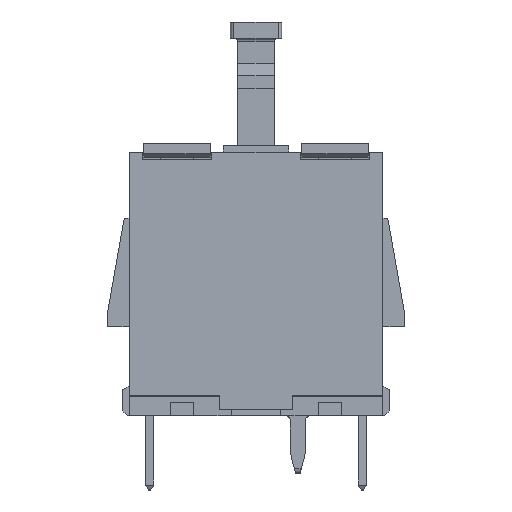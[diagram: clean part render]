
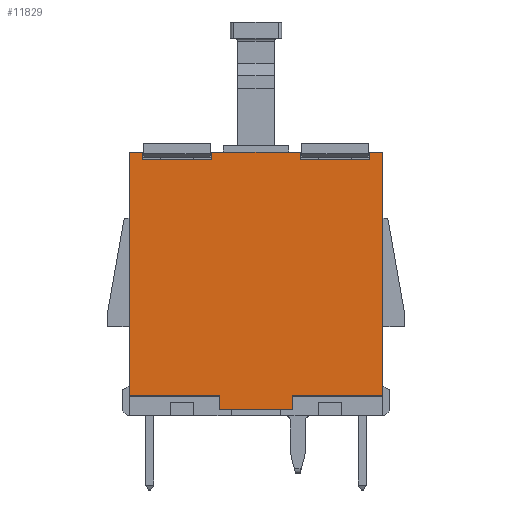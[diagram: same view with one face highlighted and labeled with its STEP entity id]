
A CAD part, top view. The second image highlights one B-rep face of the part: STEP entity #11829.
In plain terms, the highlighted planar face has unit normal (0, 0, 1).
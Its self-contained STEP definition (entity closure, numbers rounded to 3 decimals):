
#9054=DIRECTION('',(1.,0.,0.));
#9055=VECTOR('',#9054,4.4);
#9056=CARTESIAN_POINT('',(-2.2,-15.6,2.95));
#9057=LINE('',#9056,#9055);
#9058=DIRECTION('',(0.,1.,0.));
#9059=VECTOR('',#9058,0.8);
#9060=CARTESIAN_POINT('',(-2.2,-15.6,2.95));
#9061=LINE('',#9060,#9059);
#9062=DIRECTION('',(1.,0.,0.));
#9063=VECTOR('',#9062,5.5);
#9064=CARTESIAN_POINT('',(-7.7,-14.8,2.95));
#9065=LINE('',#9064,#9063);
#9066=DIRECTION('',(0.,-1.,0.));
#9067=VECTOR('',#9066,14.8);
#9068=CARTESIAN_POINT('',(-7.7,0.,2.95));
#9069=LINE('',#9068,#9067);
#9070=DIRECTION('',(-1.,0.,0.));
#9071=VECTOR('',#9070,0.8);
#9072=CARTESIAN_POINT('',(-6.9,0.,2.95));
#9073=LINE('',#9072,#9071);
#9074=DIRECTION('',(0.,-1.,0.));
#9075=VECTOR('',#9074,0.45);
#9076=CARTESIAN_POINT('',(-6.9,0.,2.95));
#9077=LINE('',#9076,#9075);
#9078=DIRECTION('',(1.,0.,0.));
#9079=VECTOR('',#9078,4.2);
#9080=CARTESIAN_POINT('',(-6.9,-0.45,2.95));
#9081=LINE('',#9080,#9079);
#9082=DIRECTION('',(0.,-1.,0.));
#9083=VECTOR('',#9082,0.45);
#9084=CARTESIAN_POINT('',(-2.7,0.,2.95));
#9085=LINE('',#9084,#9083);
#9086=DIRECTION('',(-1.,0.,0.));
#9087=VECTOR('',#9086,5.4);
#9088=CARTESIAN_POINT('',(2.7,0.,2.95));
#9089=LINE('',#9088,#9087);
#9090=DIRECTION('',(0.,-1.,0.));
#9091=VECTOR('',#9090,0.45);
#9092=CARTESIAN_POINT('',(2.7,0.,2.95));
#9093=LINE('',#9092,#9091);
#9094=DIRECTION('',(1.,0.,0.));
#9095=VECTOR('',#9094,4.2);
#9096=CARTESIAN_POINT('',(2.7,-0.45,2.95));
#9097=LINE('',#9096,#9095);
#9098=DIRECTION('',(0.,-1.,0.));
#9099=VECTOR('',#9098,0.45);
#9100=CARTESIAN_POINT('',(6.9,0.,2.95));
#9101=LINE('',#9100,#9099);
#9102=DIRECTION('',(-1.,0.,0.));
#9103=VECTOR('',#9102,0.8);
#9104=CARTESIAN_POINT('',(7.7,0.,2.95));
#9105=LINE('',#9104,#9103);
#9106=DIRECTION('',(0.,1.,0.));
#9107=VECTOR('',#9106,14.8);
#9108=CARTESIAN_POINT('',(7.7,-14.8,2.95));
#9109=LINE('',#9108,#9107);
#9110=DIRECTION('',(1.,0.,0.));
#9111=VECTOR('',#9110,5.5);
#9112=CARTESIAN_POINT('',(2.2,-14.8,2.95));
#9113=LINE('',#9112,#9111);
#9114=DIRECTION('',(0.,1.,0.));
#9115=VECTOR('',#9114,0.8);
#9116=CARTESIAN_POINT('',(2.2,-15.6,2.95));
#9117=LINE('',#9116,#9115);
#10190=CARTESIAN_POINT('',(-7.7,0.,2.95));
#10191=VERTEX_POINT('',#10190);
#10192=CARTESIAN_POINT('',(7.7,0.,2.95));
#10193=VERTEX_POINT('',#10192);
#10308=CARTESIAN_POINT('',(6.9,0.,2.95));
#10309=CARTESIAN_POINT('',(6.9,-0.45,2.95));
#10310=VERTEX_POINT('',#10308);
#10311=VERTEX_POINT('',#10309);
#10312=CARTESIAN_POINT('',(2.7,0.,2.95));
#10313=CARTESIAN_POINT('',(2.7,-0.45,2.95));
#10314=VERTEX_POINT('',#10312);
#10315=VERTEX_POINT('',#10313);
#10402=CARTESIAN_POINT('',(-2.7,0.,2.95));
#10403=CARTESIAN_POINT('',(-2.7,-0.45,2.95));
#10404=VERTEX_POINT('',#10402);
#10405=VERTEX_POINT('',#10403);
#10406=CARTESIAN_POINT('',(-6.9,0.,2.95));
#10407=CARTESIAN_POINT('',(-6.9,-0.45,2.95));
#10408=VERTEX_POINT('',#10406);
#10409=VERTEX_POINT('',#10407);
#10498=CARTESIAN_POINT('',(-7.7,-14.8,2.95));
#10499=CARTESIAN_POINT('',(-2.2,-14.8,2.95));
#10500=VERTEX_POINT('',#10498);
#10501=VERTEX_POINT('',#10499);
#10502=CARTESIAN_POINT('',(2.2,-14.8,2.95));
#10503=CARTESIAN_POINT('',(7.7,-14.8,2.95));
#10504=VERTEX_POINT('',#10502);
#10505=VERTEX_POINT('',#10503);
#10526=CARTESIAN_POINT('',(-2.2,-15.6,2.95));
#10527=CARTESIAN_POINT('',(2.2,-15.6,2.95));
#10528=VERTEX_POINT('',#10526);
#10529=VERTEX_POINT('',#10527);
#11794=CARTESIAN_POINT('',(0.,0.,2.95));
#11795=DIRECTION('',(0.,0.,1.));
#11796=DIRECTION('',(1.,0.,0.));
#11797=AXIS2_PLACEMENT_3D('',#11794,#11795,#11796);
#11798=PLANE('',#11797);
#11799=ORIENTED_EDGE('',*,*,#11732,.F.);
#11800=ORIENTED_EDGE('',*,*,#11760,.T.);
#11801=ORIENTED_EDGE('',*,*,#11770,.F.);
#11803=ORIENTED_EDGE('',*,*,#11802,.F.);
#11805=ORIENTED_EDGE('',*,*,#11804,.F.);
#11807=ORIENTED_EDGE('',*,*,#11806,.T.);
#11809=ORIENTED_EDGE('',*,*,#11808,.T.);
#11811=ORIENTED_EDGE('',*,*,#11810,.F.);
#11813=ORIENTED_EDGE('',*,*,#11812,.F.);
#11815=ORIENTED_EDGE('',*,*,#11814,.T.);
#11817=ORIENTED_EDGE('',*,*,#11816,.T.);
#11819=ORIENTED_EDGE('',*,*,#11818,.F.);
#11821=ORIENTED_EDGE('',*,*,#11820,.F.);
#11823=ORIENTED_EDGE('',*,*,#11822,.F.);
#11824=ORIENTED_EDGE('',*,*,#11784,.F.);
#11826=ORIENTED_EDGE('',*,*,#11825,.F.);
#11827=EDGE_LOOP('',(#11799,#11800,#11801,#11803,#11805,#11807,#11809,#11811,
#11813,#11815,#11817,#11819,#11821,#11823,#11824,#11826));
#11828=FACE_OUTER_BOUND('',#11827,.F.);
#11829=ADVANCED_FACE('',(#11828),#11798,.T.);
#11732=EDGE_CURVE('',#10528,#10529,#9057,.T.);
#11760=EDGE_CURVE('',#10528,#10501,#9061,.T.);
#11770=EDGE_CURVE('',#10500,#10501,#9065,.T.);
#11784=EDGE_CURVE('',#10504,#10505,#9113,.T.);
#11802=EDGE_CURVE('',#10191,#10500,#9069,.T.);
#11804=EDGE_CURVE('',#10408,#10191,#9073,.T.);
#11806=EDGE_CURVE('',#10408,#10409,#9077,.T.);
#11808=EDGE_CURVE('',#10409,#10405,#9081,.T.);
#11810=EDGE_CURVE('',#10404,#10405,#9085,.T.);
#11812=EDGE_CURVE('',#10314,#10404,#9089,.T.);
#11814=EDGE_CURVE('',#10314,#10315,#9093,.T.);
#11816=EDGE_CURVE('',#10315,#10311,#9097,.T.);
#11818=EDGE_CURVE('',#10310,#10311,#9101,.T.);
#11820=EDGE_CURVE('',#10193,#10310,#9105,.T.);
#11822=EDGE_CURVE('',#10505,#10193,#9109,.T.);
#11825=EDGE_CURVE('',#10529,#10504,#9117,.T.);
